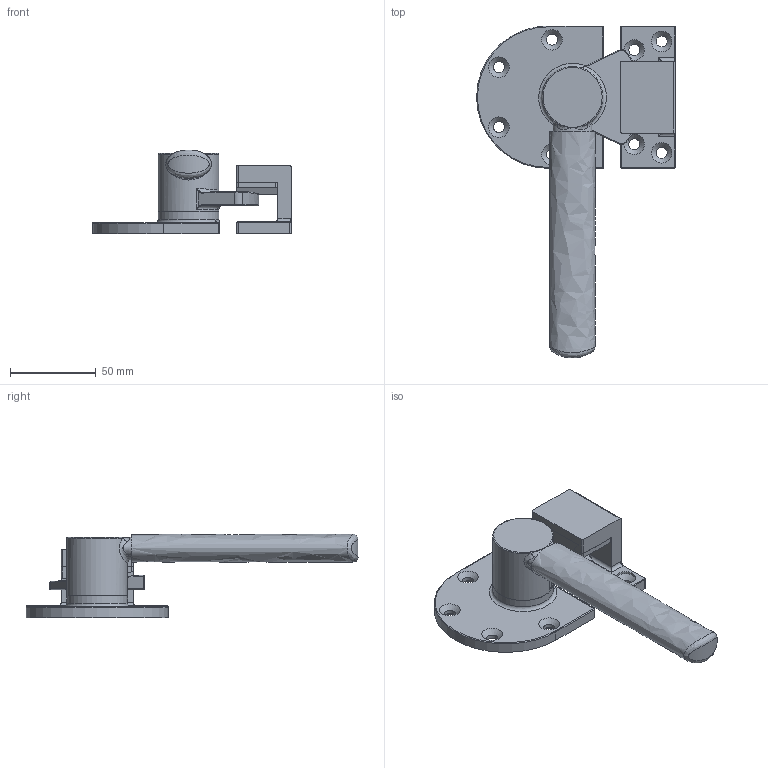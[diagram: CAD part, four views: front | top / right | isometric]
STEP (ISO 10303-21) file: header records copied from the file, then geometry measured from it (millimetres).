
FILE_DESCRIPTION(/* description */ (''),/* implementation_level */ '2;1');
FILE_NAME(/* name */ '\\SYNOLOGYNAS\web\db2\D-1113\도면\D-1113-L.stp',/* time_stamp */ '2024-06-04T14:32:27+09:00',/* author */ ('user'),/* organization */ (''),/* preprocessor_version */ 'ST-DEVELOPER v15.6',/* originating_system */ 'Autodesk Inventor 2015',/* authorisation */ '');
FILE_SCHEMA (('AUTOMOTIVE_DESIGN { 1 0 10303 214 3 1 1 }'));
Length unit declared in the file: millimetre
Products named in the file (4): D-1113-L_B; D-1113-L_H; D-1113-L_C; D-1113-L
Bounding box: 116 x 193.74 x 49 mm (x, y, z)
Volume: 147993.1 mm3; surface area: 51897.5 mm2
Topology: 5 solids, 5 shells, 377 faces, 918 edges, 541 vertices
Faces by surface type: cylinder 140, plane 85, torus 73, bspline 67, cone 10, sphere 2
Full cylindrical faces by diameter (mm): 6.5 x8, 10 x2, 12 x5, 30 x1, 35.5 x2
Entity records: 13027 total; most frequent: CARTESIAN_POINT 4417, DIRECTION 1881, ORIENTED_EDGE 1708, EDGE_CURVE 854, AXIS2_PLACEMENT_3D 785, VERTEX_POINT 527, CIRCLE 455, EDGE_LOOP 435
